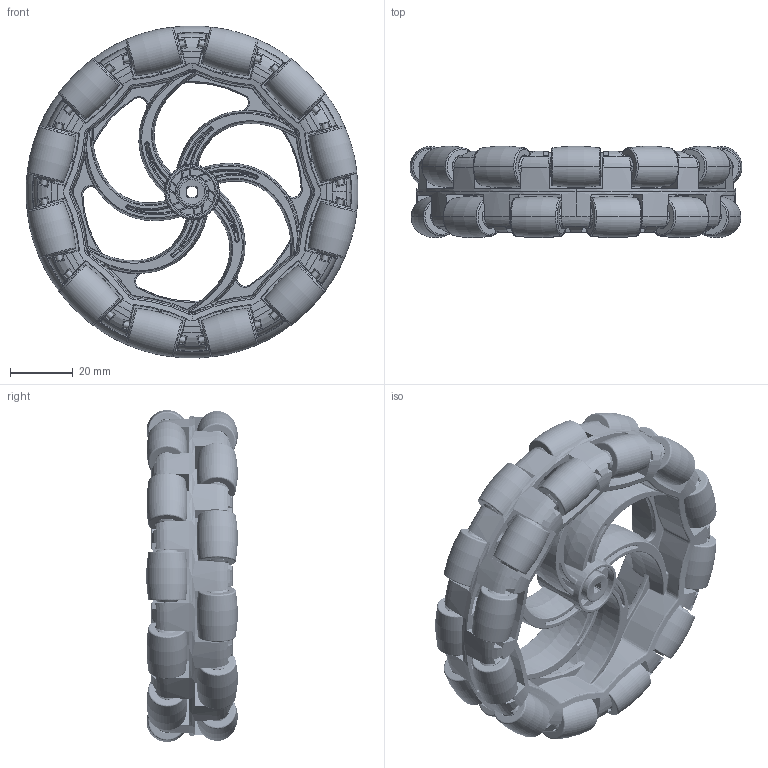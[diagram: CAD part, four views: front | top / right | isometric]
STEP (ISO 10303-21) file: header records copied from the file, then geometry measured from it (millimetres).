
FILE_DESCRIPTION (( 'STEP AP203' ), '1' );
FILE_NAME ('LARGE-OMNI-WHEEL.STEP', '2007-08-25T21:34:11', ( 'Innovation First, Inc.' ), ( 'Innovation First, Inc.' ), 'SwSTEP 2.0', 'SolidWorks 2006052', '' );
FILE_SCHEMA (( 'CONFIG_CONTROL_DESIGN' ));
Length unit declared in the file: inch
Products named in the file (7): LARGE-OMNI-WHEEL; ROLLER-INSERT; OMNI-ROLLER; ROLLER-SHAFT; ROLLER-RUBBER; LARGE-OMNI-HUB; LARGE-OMNI-HUB-INSERT
Assembly tree (29 placements, depth 3):
  LARGE-OMNI-WHEEL
    OMNI-ROLLER  x24
      ROLLER-INSERT
      ROLLER-RUBBER
      ROLLER-SHAFT
    LARGE-OMNI-HUB-INSERT
    LARGE-OMNI-HUB
Bounding box: 106.09 x 29.09 x 106.1 mm (x, y, z)
Volume: 89361.2 mm3; surface area: 93159.6 mm2
Topology: 74 solids, 74 shells, 3517 faces, 8917 edges, 5540 vertices
Faces by surface type: plane 938, bspline 936, cone 800, cylinder 741, torus 102
Entity records: 114735 total; most frequent: CARTESIAN_POINT 73208, ORIENTED_EDGE 11070, EDGE_CURVE 5535, DIRECTION 4775, VERTEX_POINT 3516, B_SPLINE_CURVE_WITH_KNOTS 2998, EDGE_LOOP 1993, FACE_OUTER_BOUND 1953
